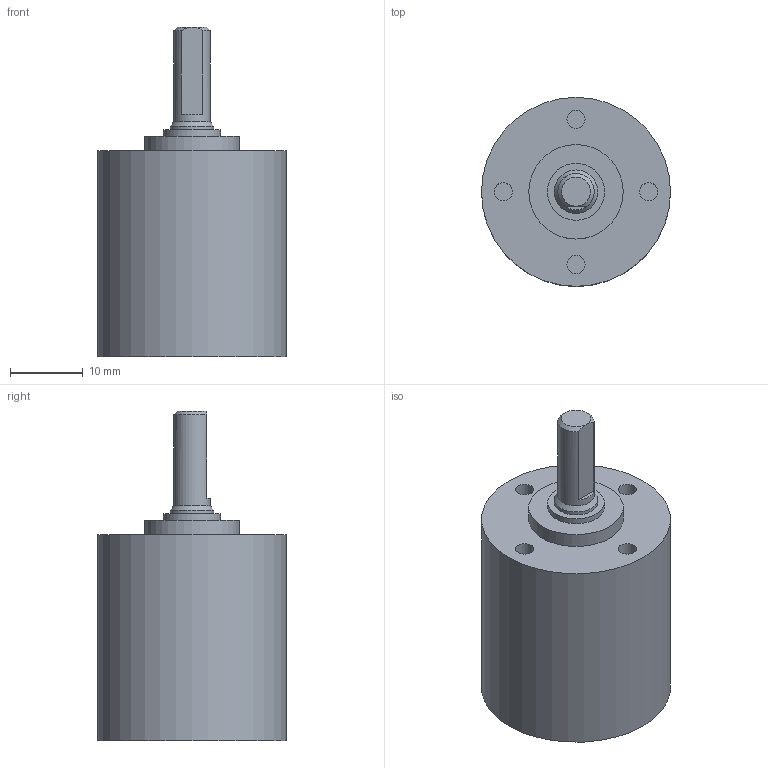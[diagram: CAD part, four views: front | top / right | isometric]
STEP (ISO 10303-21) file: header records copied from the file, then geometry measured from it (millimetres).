
FILE_DESCRIPTION(/* description */ (''),/* implementation_level */ '2;1');
FILE_NAME(/* name */ '26-1_1stage.stp',/* time_stamp */ '2021-02-23T07:20:02+01:00',/* author */ ('DR. FRITZ FAULHABER GmbH & Co. KG'),/* organization */ ('DR. FRITZ FAULHABER GmbH & Co. KG'),/* preprocessor_version */ 'ST-DEVELOPER v16.7',/* originating_system */ 'SIEMENS PLM Software NX 1919',/* authorisation */ '');
FILE_SCHEMA (('AUTOMOTIVE_DESIGN { 1 0 10303 214 3 1 1 1 }'));
Length unit declared in the file: millimetre
Products named in the file (1): 012020_A_2-TP-00214
Bounding box: 26 x 26 x 45.4 mm (x, y, z)
Volume: 11248 mm3; surface area: 4655.8 mm2
Topology: 1 solids, 1 shells, 34 faces, 65 edges, 47 vertices
Faces by surface type: plane 17, cylinder 15, cone 2
Full cylindrical faces by diameter (mm): 2.5 x4, 5 x1, 6 x1, 7.85 x1, 11.7 x1, 12.01 x1, 13 x1, 21.5 x1, 22.05 x1, 24 x1, 24.459 x1, 26 x1
Entity records: 824 total; most frequent: DIRECTION 157, CARTESIAN_POINT 123, AXIS2_PLACEMENT_3D 77, ORIENTED_EDGE 74, EDGE_LOOP 63, FACE_BOUND 54, CIRCLE 42, EDGE_CURVE 37
